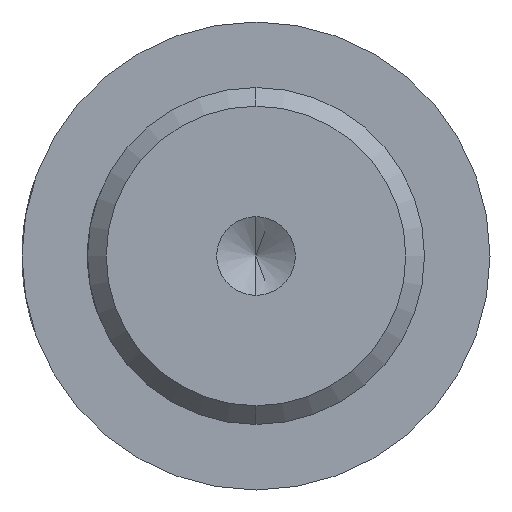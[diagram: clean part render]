
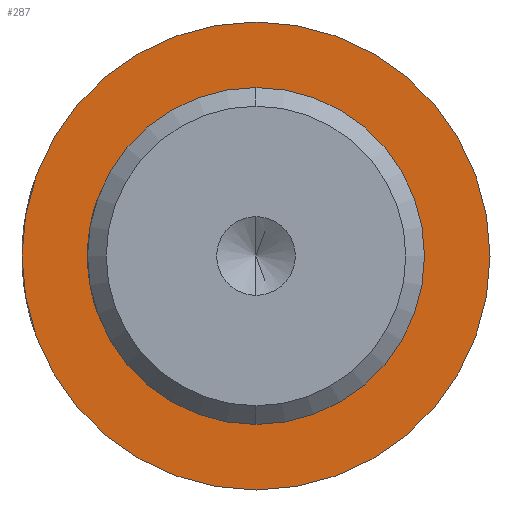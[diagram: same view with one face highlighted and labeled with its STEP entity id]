
A CAD part, left-side view. The second image highlights one B-rep face of the part: STEP entity #287.
In plain terms, the highlighted planar face has unit normal (-1, 0, 0).
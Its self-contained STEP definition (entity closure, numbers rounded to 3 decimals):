
#8 = EDGE_CURVE ( 'NONE', #17, #76, #372, .T. ) ;
#17 = VERTEX_POINT ( 'NONE', #390 ) ;
#20 = VERTEX_POINT ( 'NONE', #382 ) ;
#44 = EDGE_LOOP ( 'NONE', ( #126, #48 ) ) ;
#46 = EDGE_CURVE ( 'NONE', #20, #85, #378, .T. ) ;
#48 = ORIENTED_EDGE ( 'NONE', *, *, #303, .T. ) ;
#65 = ORIENTED_EDGE ( 'NONE', *, *, #46, .F. ) ;
#76 = VERTEX_POINT ( 'NONE', #653 ) ;
#85 = VERTEX_POINT ( 'NONE', #633 ) ;
#126 = ORIENTED_EDGE ( 'NONE', *, *, #8, .T. ) ;
#127 = EDGE_CURVE ( 'NONE', #85, #20, #553, .T. ) ;
#243 = ORIENTED_EDGE ( 'NONE', *, *, #127, .F. ) ;
#287 = ADVANCED_FACE ( 'NONE', ( #704, #707 ), #702, .T. ) ;
#303 = EDGE_CURVE ( 'NONE', #76, #17, #782, .T. ) ;
#309 = EDGE_LOOP ( 'NONE', ( #65, #243 ) ) ;
#372 = CIRCLE ( 'NONE', #383, 9. ) ;
#378 = CIRCLE ( 'NONE', #394, 12.5 ) ;
#380 = CARTESIAN_POINT ( 'NONE',  ( 64., 0., 0. ) ) ;
#382 = CARTESIAN_POINT ( 'NONE',  ( 64., 0., -12.5 ) ) ;
#383 = AXIS2_PLACEMENT_3D ( 'NONE', #380, #415, #386 ) ;
#386 = DIRECTION ( 'NONE',  ( 0., 0., -1. ) ) ;
#390 = CARTESIAN_POINT ( 'NONE',  ( 64., 0., -9. ) ) ;
#394 = AXIS2_PLACEMENT_3D ( 'NONE', #422, #421, #420 ) ;
#415 = DIRECTION ( 'NONE',  ( 1., 0., 0. ) ) ;
#420 = DIRECTION ( 'NONE',  ( 0., 0., -1. ) ) ;
#421 = DIRECTION ( 'NONE',  ( 1., 0., 0. ) ) ;
#422 = CARTESIAN_POINT ( 'NONE',  ( 64., 0., 0. ) ) ;
#549 = DIRECTION ( 'NONE',  ( 0., 0., -1. ) ) ;
#550 = DIRECTION ( 'NONE',  ( 1., 0., 0. ) ) ;
#553 = CIRCLE ( 'NONE', #566, 12.5 ) ;
#566 = AXIS2_PLACEMENT_3D ( 'NONE', #590, #550, #549 ) ;
#590 = CARTESIAN_POINT ( 'NONE',  ( 64., 0., 0. ) ) ;
#633 = CARTESIAN_POINT ( 'NONE',  ( 64., 0., 12.5 ) ) ;
#653 = CARTESIAN_POINT ( 'NONE',  ( 64., 0., 9. ) ) ;
#697 = DIRECTION ( 'NONE',  ( 0., 0., 1. ) ) ;
#698 = DIRECTION ( 'NONE',  ( -1., 0., 0. ) ) ;
#702 = PLANE ( 'NONE',  #818 ) ;
#704 = FACE_BOUND ( 'NONE', #44, .T. ) ;
#707 = FACE_OUTER_BOUND ( 'NONE', #309, .T. ) ;
#709 = CARTESIAN_POINT ( 'NONE',  ( 64., 12.5, 0. ) ) ;
#776 = DIRECTION ( 'NONE',  ( 0., 0., -1. ) ) ;
#777 = DIRECTION ( 'NONE',  ( 1., 0., 0. ) ) ;
#782 = CIRCLE ( 'NONE', #784, 9. ) ;
#784 = AXIS2_PLACEMENT_3D ( 'NONE', #803, #777, #776 ) ;
#803 = CARTESIAN_POINT ( 'NONE',  ( 64., 0., 0. ) ) ;
#818 = AXIS2_PLACEMENT_3D ( 'NONE', #709, #698, #697 ) ;
